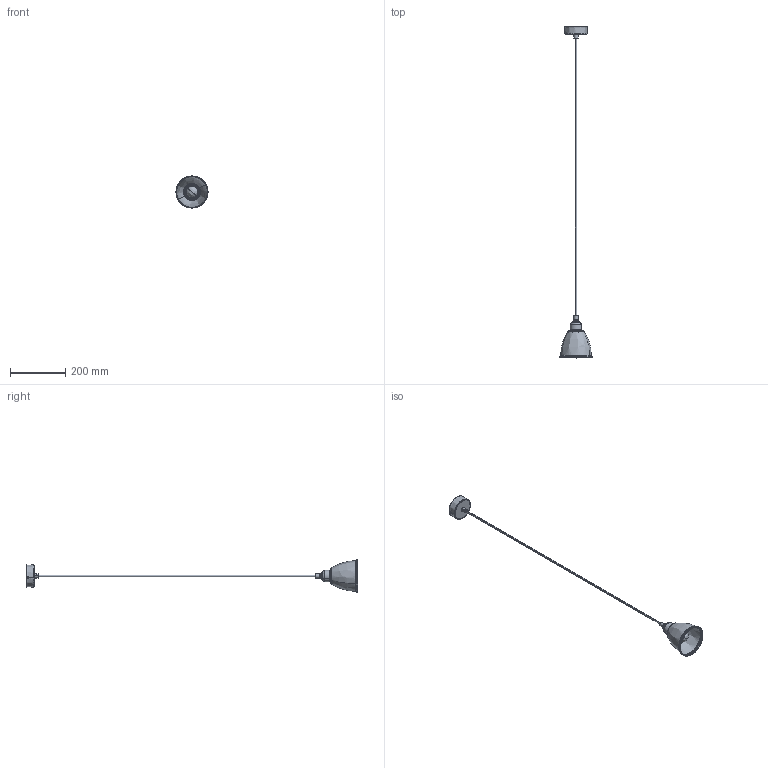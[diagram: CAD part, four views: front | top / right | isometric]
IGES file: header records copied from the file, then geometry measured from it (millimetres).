
Start section: SolidWorks IGES file using analytic representation for surfaces
Global section: file name: E:\3D lampy\Axe\Axe_5312.IGS; native system: SolidWorks 2016; preprocessor: SolidWorks 2016; author: Asia; date: 171004.150138; units: millimetre
Bounding box: 115.99 x 1201.38 x 116 mm (x, y, z)
Surface area: 147516.4 mm2 (no closed solid volume)
Topology: 0 solids, 0 shells, 734 faces, 6790 edges, 6788 vertices
Faces by surface type: revolution 495, bspline 239
